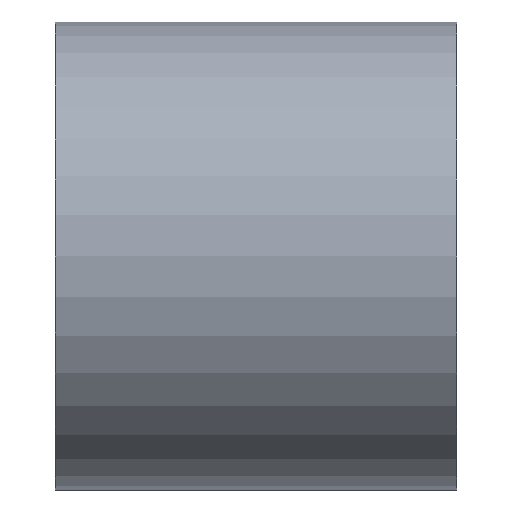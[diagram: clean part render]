
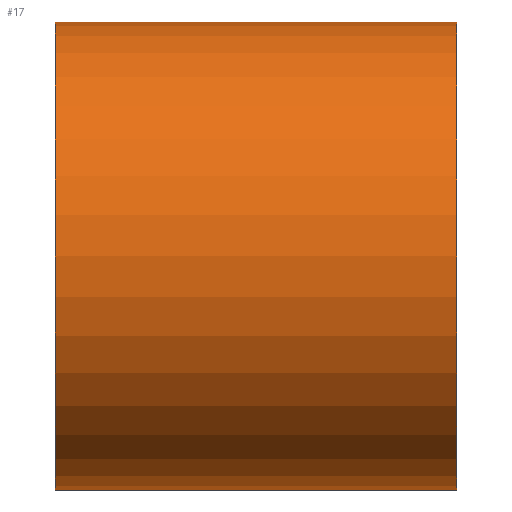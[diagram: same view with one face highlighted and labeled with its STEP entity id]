
A CAD part, front view. The second image highlights one B-rep face of the part: STEP entity #17.
In plain terms, the highlighted cylindrical face has radius 1.75 mm (diameter 3.5 mm), a full revolution.
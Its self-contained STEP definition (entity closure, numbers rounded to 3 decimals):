
#17 = ADVANCED_FACE('',(#18),#32,.T.);
#18 = FACE_BOUND('',#19,.F.);
#19 = EDGE_LOOP('',(#20,#50,#77,#78));
#20 = ORIENTED_EDGE('',*,*,#21,.T.);
#21 = EDGE_CURVE('',#22,#24,#26,.T.);
#22 = VERTEX_POINT('',#23);
#23 = CARTESIAN_POINT('',(59.194,-14.25,12.));
#24 = VERTEX_POINT('',#25);
#25 = CARTESIAN_POINT('',(62.194,-14.25,12.));
#26 = SEAM_CURVE('',#27,(#31,#43),.PCURVE_S1.);
#27 = LINE('',#28,#29);
#28 = CARTESIAN_POINT('',(59.194,-14.25,12.));
#29 = VECTOR('',#30,1.);
#30 = DIRECTION('',(1.,0.,0.));
#31 = PCURVE('',#32,#37);
#32 = CYLINDRICAL_SURFACE('',#33,1.75);
#33 = AXIS2_PLACEMENT_3D('',#34,#35,#36);
#34 = CARTESIAN_POINT('',(59.194,-16.,12.));
#35 = DIRECTION('',(-1.,-0.,-0.));
#36 = DIRECTION('',(0.,1.,0.));
#37 = DEFINITIONAL_REPRESENTATION('',(#38),#42);
#38 = LINE('',#39,#40);
#39 = CARTESIAN_POINT('',(-0.,0.));
#40 = VECTOR('',#41,1.);
#41 = DIRECTION('',(-0.,-1.));
#42 = ( GEOMETRIC_REPRESENTATION_CONTEXT(2) 
PARAMETRIC_REPRESENTATION_CONTEXT() REPRESENTATION_CONTEXT('2D SPACE',''
  ) );
#43 = PCURVE('',#32,#44);
#44 = DEFINITIONAL_REPRESENTATION('',(#45),#49);
#45 = LINE('',#46,#47);
#46 = CARTESIAN_POINT('',(-6.283,0.));
#47 = VECTOR('',#48,1.);
#48 = DIRECTION('',(-0.,-1.));
#49 = ( GEOMETRIC_REPRESENTATION_CONTEXT(2) 
PARAMETRIC_REPRESENTATION_CONTEXT() REPRESENTATION_CONTEXT('2D SPACE',''
  ) );
#50 = ORIENTED_EDGE('',*,*,#51,.T.);
#51 = EDGE_CURVE('',#24,#24,#52,.T.);
#52 = SURFACE_CURVE('',#53,(#58,#65),.PCURVE_S1.);
#53 = CIRCLE('',#54,1.75);
#54 = AXIS2_PLACEMENT_3D('',#55,#56,#57);
#55 = CARTESIAN_POINT('',(62.194,-16.,12.));
#56 = DIRECTION('',(1.,0.,0.));
#57 = DIRECTION('',(0.,1.,0.));
#58 = PCURVE('',#32,#59);
#59 = DEFINITIONAL_REPRESENTATION('',(#60),#64);
#60 = LINE('',#61,#62);
#61 = CARTESIAN_POINT('',(-0.,-3.));
#62 = VECTOR('',#63,1.);
#63 = DIRECTION('',(-1.,0.));
#64 = ( GEOMETRIC_REPRESENTATION_CONTEXT(2) 
PARAMETRIC_REPRESENTATION_CONTEXT() REPRESENTATION_CONTEXT('2D SPACE',''
  ) );
#65 = PCURVE('',#66,#71);
#66 = PLANE('',#67);
#67 = AXIS2_PLACEMENT_3D('',#68,#69,#70);
#68 = CARTESIAN_POINT('',(62.194,-16.,12.));
#69 = DIRECTION('',(1.,0.,0.));
#70 = DIRECTION('',(-0.,0.,1.));
#71 = DEFINITIONAL_REPRESENTATION('',(#72),#76);
#72 = CIRCLE('',#73,1.75);
#73 = AXIS2_PLACEMENT_2D('',#74,#75);
#74 = CARTESIAN_POINT('',(0.,0.));
#75 = DIRECTION('',(0.,-1.));
#76 = ( GEOMETRIC_REPRESENTATION_CONTEXT(2) 
PARAMETRIC_REPRESENTATION_CONTEXT() REPRESENTATION_CONTEXT('2D SPACE',''
  ) );
#77 = ORIENTED_EDGE('',*,*,#21,.F.);
#78 = ORIENTED_EDGE('',*,*,#79,.F.);
#79 = EDGE_CURVE('',#22,#22,#80,.T.);
#80 = SURFACE_CURVE('',#81,(#86,#93),.PCURVE_S1.);
#81 = CIRCLE('',#82,1.75);
#82 = AXIS2_PLACEMENT_3D('',#83,#84,#85);
#83 = CARTESIAN_POINT('',(59.194,-16.,12.));
#84 = DIRECTION('',(1.,0.,0.));
#85 = DIRECTION('',(0.,1.,0.));
#86 = PCURVE('',#32,#87);
#87 = DEFINITIONAL_REPRESENTATION('',(#88),#92);
#88 = LINE('',#89,#90);
#89 = CARTESIAN_POINT('',(-0.,0.));
#90 = VECTOR('',#91,1.);
#91 = DIRECTION('',(-1.,0.));
#92 = ( GEOMETRIC_REPRESENTATION_CONTEXT(2) 
PARAMETRIC_REPRESENTATION_CONTEXT() REPRESENTATION_CONTEXT('2D SPACE',''
  ) );
#93 = PCURVE('',#94,#99);
#94 = PLANE('',#95);
#95 = AXIS2_PLACEMENT_3D('',#96,#97,#98);
#96 = CARTESIAN_POINT('',(59.194,-16.,12.));
#97 = DIRECTION('',(1.,0.,0.));
#98 = DIRECTION('',(-0.,0.,1.));
#99 = DEFINITIONAL_REPRESENTATION('',(#100),#104);
#100 = CIRCLE('',#101,1.75);
#101 = AXIS2_PLACEMENT_2D('',#102,#103);
#102 = CARTESIAN_POINT('',(0.,0.));
#103 = DIRECTION('',(0.,-1.));
#104 = ( GEOMETRIC_REPRESENTATION_CONTEXT(2) 
PARAMETRIC_REPRESENTATION_CONTEXT() REPRESENTATION_CONTEXT('2D SPACE',''
  ) );
